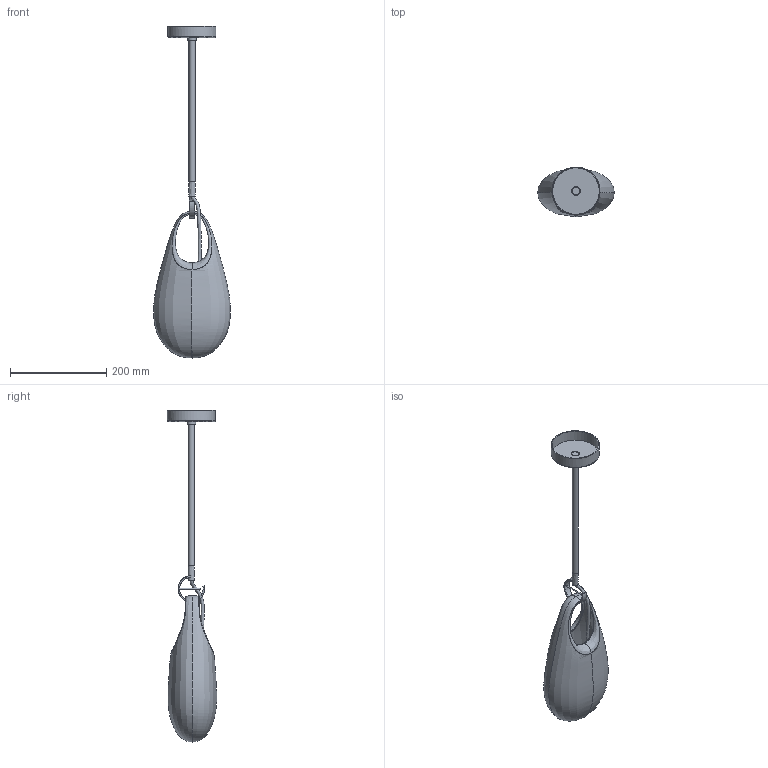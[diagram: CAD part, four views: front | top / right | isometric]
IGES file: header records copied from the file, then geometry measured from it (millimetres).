
Global section: file name: /Users/danielszollosi/Documents/SkLO/Sklo.com/3D models/WEB 3D Models/SkLO_Hold_12_Pendant_LT264_3D_EU.igs; native system: Rhinoceros ( Sep 24 2023 ); preprocessor: Trout Lake IGES 012 Sep 24 2023; date: 241021.160630; units: millimetre
Bounding box: 159.99 x 102.72 x 691.3 mm (x, y, z)
Surface area: 253947.2 mm2 (no closed solid volume)
Topology: 0 solids, 0 shells, 481 faces, 5315 edges, 5241 vertices
Faces by surface type: bspline 481
